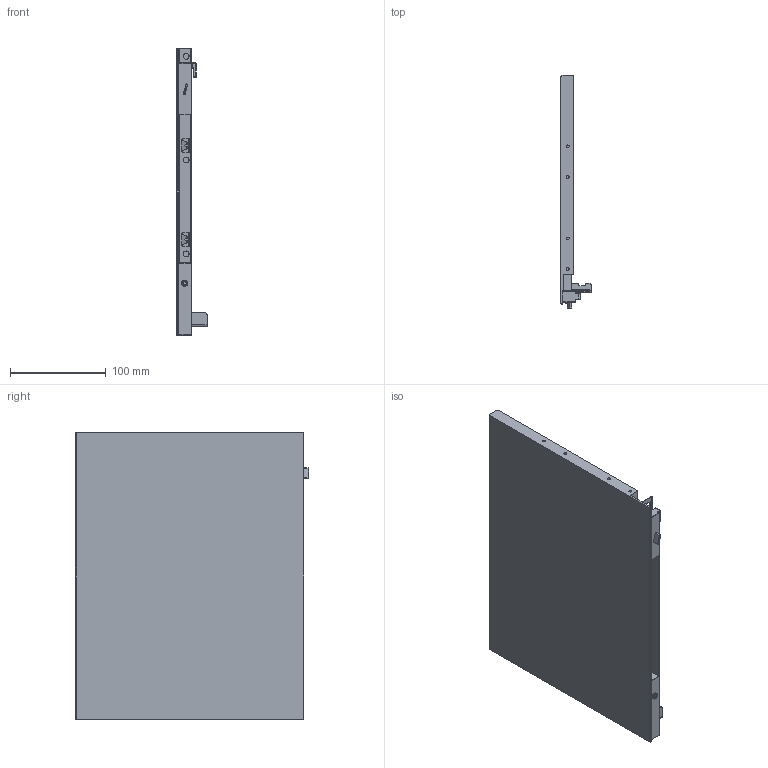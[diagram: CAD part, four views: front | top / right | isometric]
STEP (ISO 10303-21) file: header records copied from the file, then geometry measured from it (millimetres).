
FILE_DESCRIPTION (( 'STEP AP203' ), '1' );
FILE_NAME ('HT143001-L.STEP', '2021-03-16T02:38:12', ( 'Users' ), ( 'Microsoft' ), 'SwSTEP 2.0', 'SolidWorks 2018', '' );
FILE_SCHEMA (( 'CONFIG_CONTROL_DESIGN' ));
Length unit declared in the file: millimetre
Products named in the file (1): HT143001-L
Bounding box: 31.3 x 243 x 299 mm (x, y, z)
Volume: 835022.9 mm3; surface area: 174714.5 mm2
Topology: 1 solids, 8 shells, 373 faces, 936 edges, 581 vertices
Faces by surface type: plane 176, cylinder 133, torus 29, bspline 23, cone 6, sphere 6
Entity records: 11623 total; most frequent: CARTESIAN_POINT 2752, ORIENTED_EDGE 1854, DIRECTION 1808, EDGE_CURVE 927, AXIS2_PLACEMENT_3D 621, VERTEX_POINT 581, LINE 566, VECTOR 566
